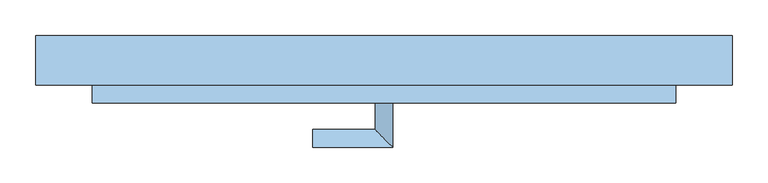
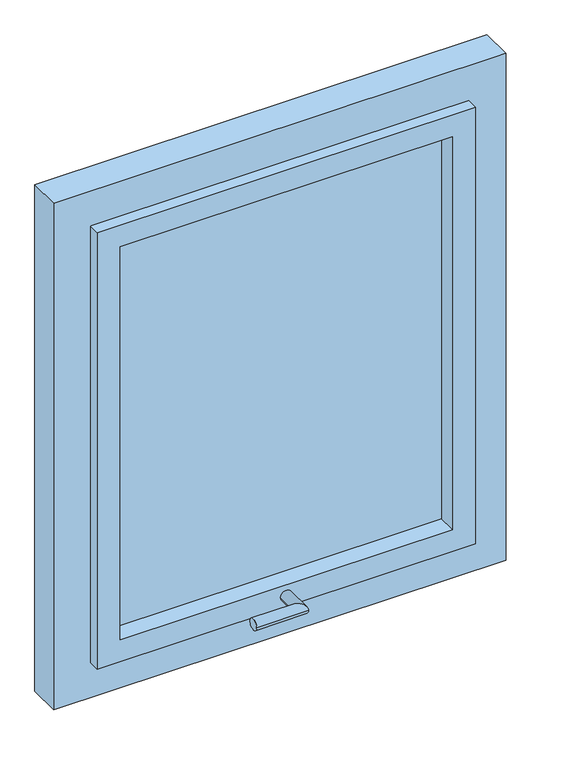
"""IFC4 building model written with IfcOpenShell, lengths in millimetres: window geometry, RFAM2316_Window-10 : Window  FIX (1,0x1,17)."""

from ifc_helpers import new_model, si_unit, frame, origin, place, context, project, spatial, polyline, circle_curve, ellipse_curve, outline, extrude, faceted_brep, source, transform, mapped, element, save
from ifc_brep_helpers import plane_surface, cylinder_surface, advanced_brep


def window_c3153de1(model_context):
    return source(origin(), model_context, "Body", "SolidModel", [
        advanced_brep(
        [(244.3584094, -139.9407167, 1005.0), (269.3584094, -139.9407167, 1005.0), (244.3584094, -177.4407167, 1005.0), (269.3584094, -202.4407167, 1005.0), (156.8584094, -177.4407167, 1005.0), (156.8584094, -202.4407167, 1005.0)],
        [
            (0, 1, circle_curve(frame((256.8584094, -139.9407167, 1005.0), z_axis=(0.0, 1.0, 0.0), x_axis=(1.0, 0.0, 0.0)), 12.5)),
            (1, 0, circle_curve(frame((256.8584094, -139.9407167, 1005.0), z_axis=(0.0, 1.0, 0.0), x_axis=(1.0, 0.0, 0.0)), 12.5)),
            (0, 2),
            (2, 3, ellipse_curve(frame((256.8584094, -189.9407167, 1005.0), z_axis=(0.7071067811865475, 0.7071067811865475, 0.0), x_axis=(-0.7071067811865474, 0.7071067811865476, 0.0)), 17.6776695, 12.5)),
            (3, 1),
            (3, 2, ellipse_curve(frame((256.8584094, -189.9407167, 1005.0), z_axis=(0.7071067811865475, 0.7071067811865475, 0.0), x_axis=(-0.7071067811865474, 0.7071067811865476, 0.0)), 17.6776695, 12.5)),
            (4, 5, circle_curve(frame((156.8584094, -189.9407167, 1005.0), z_axis=(-1.0, 0.0, 0.0), x_axis=(0.0, -1.0, 0.0)), 12.5)),
            (5, 4, circle_curve(frame((156.8584094, -189.9407167, 1005.0), z_axis=(-1.0, 0.0, 0.0), x_axis=(0.0, -1.0, 0.0)), 12.5)),
            (2, 4),
            (5, 3),
        ],
        [
            plane_surface(frame((256.8584094, -139.9407167, 1005.0), z_axis=(0.0, 1.0, 0.0), x_axis=(0.0, 0.0, 1.0))),
            cylinder_surface(frame((256.8584094, -139.9407167, 1005.0), z_axis=(0.0, 1.0, 0.0), x_axis=(1.0, 0.0, 0.0)), 12.5),
            plane_surface(frame((156.8584094, -189.9407167, 1005.0), z_axis=(-1.0, 0.0, 0.0), x_axis=(0.0, 0.0, 1.0))),
            cylinder_surface(frame((256.8584094, -189.9407167, 1005.0), z_axis=(1.0, 0.0, 0.0), x_axis=(0.0, -1.0, 0.0)), 12.5),
        ],
        [
            (0, [[1, 2]]),
            (1, [[-1, 3, 4, 5]]),
            (1, [[-2, -5, 6, -3]]),
            (2, [[7, 8]]),
            (3, [[-4, 9, -8, 10]]),
            (3, [[-6, -10, -7, -9]]),
        ],
    ),
        extrude(outline(polyline([(616.8584094, -90.9407167), (616.8584094, -98.9407167), (-103.1415906, -98.9407167), (-103.1415906, -90.9407167), (616.8584094, -90.9407167)])), frame((0.0, 0.0, 1030.0), z_axis=(0.0, 0.0, 1.0), x_axis=(1.0, 0.0, 0.0)), (0.0, 0.0, 1.0), 900.0),
        faceted_brep([(-153.1415906, -69.9407167, 980.0), (666.8584094, -69.9407167, 980.0), (666.8584094, -114.9407167, 980.0), (666.8584094, -139.9407167, 980.0), (-153.1415906, -139.9407167, 980.0), (-153.1415906, -114.9407167, 980.0), (-103.1415906, -69.9407167, 1030.0), (-103.1415906, -139.9407167, 1030.0), (616.8584094, -139.9407167, 1030.0), (616.8584094, -69.9407167, 1030.0), (666.8584094, -69.9407167, 1980.0), (666.8584094, -114.9407167, 1980.0), (666.8584094, -139.9407167, 1980.0), (616.8584094, -139.9407167, 1930.0), (616.8584094, -69.9407167, 1930.0), (-153.1415906, -69.9407167, 1980.0), (-153.1415906, -114.9407167, 1980.0), (-153.1415906, -139.9407167, 1980.0), (-103.1415906, -139.9407167, 1930.0), (-103.1415906, -69.9407167, 1930.0)], [[[0, 1, 2, 3, 4, 5]], [[6, 7, 8, 9]], [[1, 10, 11, 12, 3, 2]], [[9, 8, 13, 14]], [[10, 15, 16, 17, 12, 11]], [[14, 13, 18, 19]], [[1, 0, 15, 10], [6, 9, 14, 19]], [[15, 0, 5, 4, 17, 16]], [[4, 3, 12, 17], [8, 7, 18, 13]], [[7, 6, 19, 18]]]),
        extrude(outline(polyline([(2060.0, 746.8584094), (2060.0, -233.1415906), (900.0, -233.1415906), (900.0, 746.8584094), (2060.0, 746.8584094)]), holes=[polyline([(1980.0, -153.1415906), (1980.0, 666.8584094), (980.0, 666.8584094), (980.0, -153.1415906), (1980.0, -153.1415906)])]), frame((0.0, -114.9407167, 0.0), z_axis=(0.0, 1.0, 0.0), x_axis=(0.0, 0.0, 1.0)), (0.0, 0.0, 1.0), 70.0),
    ])


if __name__ == "__main__":
    model = new_model("IFC4")
    model_context = context("Model", 3, world=origin())
    ifc_project = project(units=[si_unit("LENGTHUNIT", "METRE", prefix="MILLI")], contexts=[model_context])
    site = spatial("IfcSite", under=ifc_project)
    building = spatial("IfcBuilding", under=site)
    placement = place(None, origin())
    window_shape = window_c3153de1(model_context)
    element("IfcWindow", 1, ObjectType="RFAM2316_Window-10 : Window  FIX (1,0x1,17)", at=placement, inside=building, context=model_context, shape_type="MappedRepresentation", body=[
        mapped(window_shape, transform((0.0, 0.0, 0.0), x_axis=(1.0, 0.0, 0.0), y_axis=(0.0, 1.0, 0.0), z_axis=(0.0, 0.0, 1.0))),
    ])
    save(model, "model.ifc")
